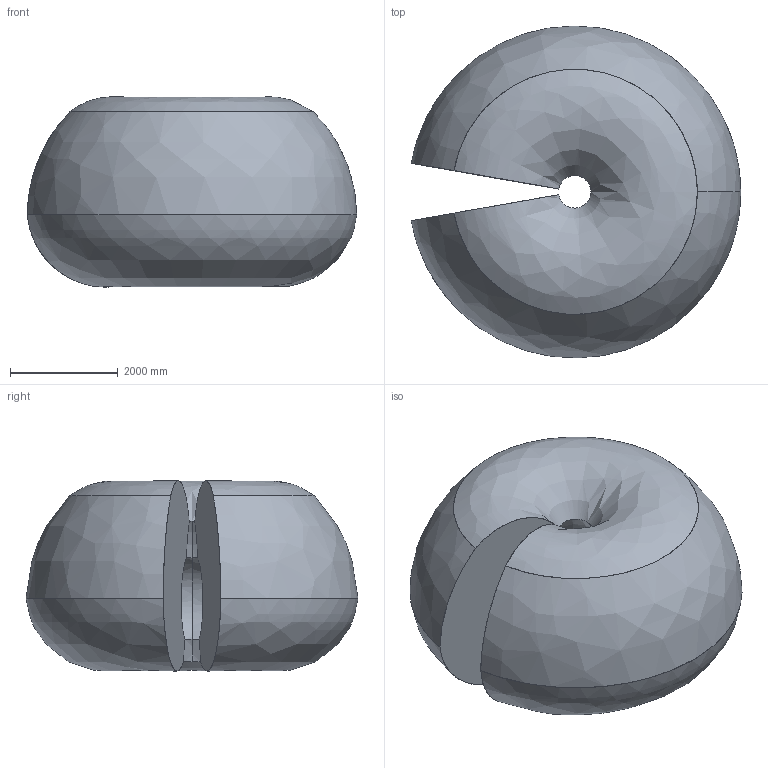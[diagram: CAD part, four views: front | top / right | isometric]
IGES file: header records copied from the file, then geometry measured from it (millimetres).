
Start section: SolidWorks IGES file using analytic representation for surfaces
Global section: file name: C:\Users\seamsto1\Desktop\77XX\Working space\IRB7710_All-310_OC_00_Working-space.IGS; native system: SolidWorks 2022; preprocessor: SolidWorks 2022; author: SEAMSTO1; date: 240215.132033; units: millimetre
Bounding box: 6103.23 x 6149.59 x 3522.67 mm (x, y, z)
Surface area: 118749748 mm2 (no closed solid volume)
Topology: 0 solids, 0 shells, 12 faces, 292 edges, 292 vertices
Faces by surface type: bspline 12
